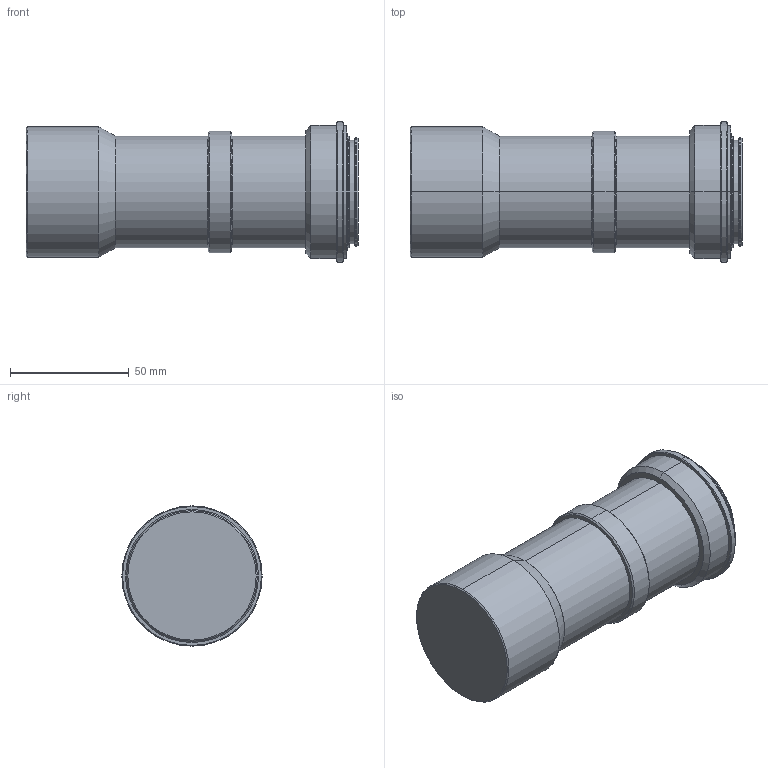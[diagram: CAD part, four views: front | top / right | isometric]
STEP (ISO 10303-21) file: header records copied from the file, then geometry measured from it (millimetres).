
FILE_DESCRIPTION (( 'STEP AP203' ), '1' );
FILE_NAME ('VS-LTC1-70-35_FS.STEP', '2017-01-25T04:25:59', ( '' ), ( '' ), 'SwSTEP 2.0', 'SolidWorks 2017', '' );
FILE_SCHEMA (( 'CONFIG_CONTROL_DESIGN' ));
Length unit declared in the file: millimetre
Products named in the file (1): VS-LTC1-70-35_FS
Bounding box: 139.7 x 59 x 59 mm (x, y, z)
Volume: 279328.2 mm3; surface area: 28790.6 mm2
Topology: 1 solids, 1 shells, 62 faces, 122 edges, 72 vertices
Faces by surface type: cone 30, cylinder 20, plane 12
Entity records: 1671 total; most frequent: DIRECTION 320, CARTESIAN_POINT 257, ORIENTED_EDGE 244, AXIS2_PLACEMENT_3D 135, EDGE_CURVE 122, CIRCLE 72, EDGE_LOOP 72, VERTEX_POINT 72
